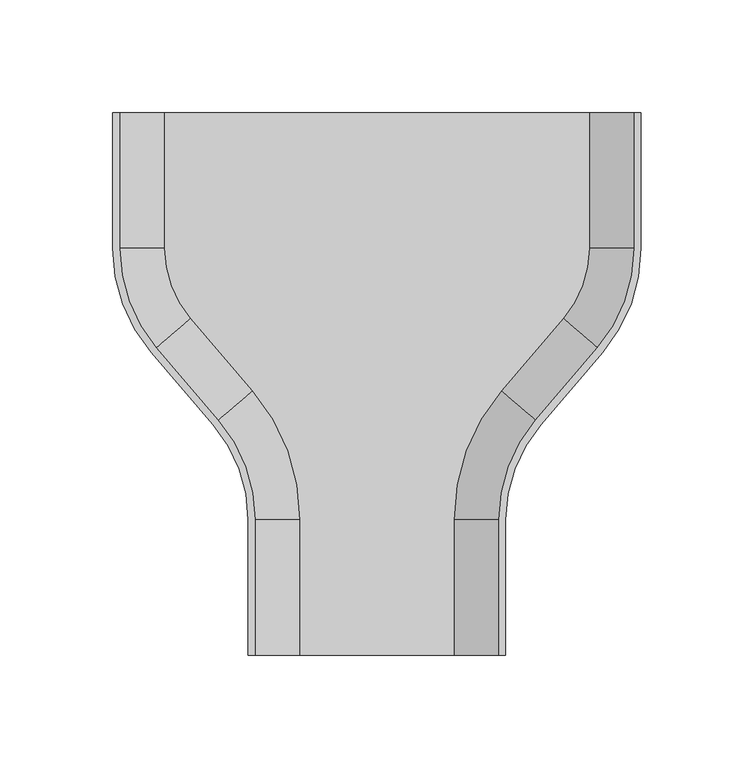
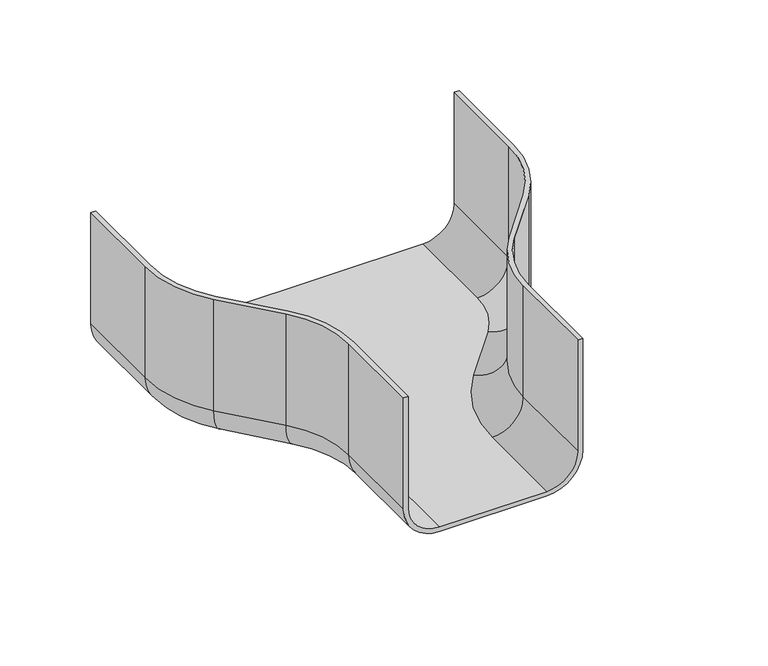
"""IFC4 building model written with IfcOpenShell, lengths in millimetres: cable carrier fitting geometry, CCT_Hyperline_FBTR-240-RDC120 Переход 240-120 для оптического лотка : Переход 240-120 для оптического лотка."""

from ifc_helpers import new_model, si_unit, point, frame, origin, place, context, project, spatial, polyline, circle_curve, ellipse_curve, trimmed, source, transform, mapped, element, save
from ifc_brep_helpers import plane_surface, cylinder_surface, revolved_surface, advanced_brep


def cable_carrier_fitting_166d4458(model_context):
    return source(origin(), model_context, "Body", "AdvancedBrep", [
        advanced_brep(
        [(-57.0, -120.0, -24.92), (-34.0, -120.0, -47.92), (34.0, -120.0, -47.92), (57.0, -120.0, -24.92), (57.0, -120.0, 50.0), (54.0, -120.0, 50.0), (54.0, -120.0, -24.92), (34.0, -120.0, -44.92), (-34.0, -120.0, -44.92), (-54.0, -120.0, -24.92), (-54.0, -120.0, 50.0), (-57.0, -120.0, 50.0), (-57.0, -60.0, -24.92), (-34.0, -60.0, -47.92), (-55.0846523, -3.0027575, -47.92), (-82.5450836, 29.0344124, -47.92), (-94.0, 60.0, -47.92), (-94.0, 120.0, -47.92), (94.0, 120.0, -47.92), (94.0, 60.0, -47.92), (82.5450836, 29.0344124, -47.92), (55.0846523, -3.0027575, -47.92), (34.0, -60.0, -47.92), (34.0, -60.0, -44.92), (55.0846523, -3.0027575, -44.92), (82.5450836, 29.0344124, -44.92), (94.0, 60.0, -44.92), (94.0, 120.0, -44.92), (-94.0, 120.0, -44.92), (-94.0, 60.0, -44.92), (-82.5450836, 29.0344124, -44.92), (-55.0846523, -3.0027575, -44.92), (-34.0, -60.0, -44.92), (-54.0, -60.0, -24.92), (-54.0, -60.0, 50.0), (-70.2697843, -16.0185849, 50.0), (-97.7302157, 16.0185849, 50.0), (-114.0, 60.0, 50.0), (-114.0, 120.0, 50.0), (-117.0, 120.0, 50.0), (-117.0, 60.0, 50.0), (-100.0079855, 14.0662108, 50.0), (-72.5475541, -17.9709591, 50.0), (-57.0, -60.0, 50.0), (-114.0, 120.0, -24.92), (114.0, 120.0, -24.92), (114.0, 120.0, 50.0), (117.0, 120.0, 50.0), (117.0, 120.0, -24.92), (-117.0, 120.0, -24.92), (-72.5475541, -17.9709591, -24.92), (-70.2697843, -16.0185849, -24.92), (-100.0079855, 14.0662108, -24.92), (-97.7302157, 16.0185849, -24.92), (-117.0, 60.0, -24.92), (-114.0, 60.0, -24.92), (57.0, -60.0, -24.92), (54.0, -60.0, -24.92), (54.0, -60.0, 50.0), (57.0, -60.0, 50.0), (72.5475541, -17.9709591, 50.0), (100.0079855, 14.0662108, 50.0), (117.0, 60.0, 50.0), (114.0, 60.0, 50.0), (97.7302157, 16.0185849, 50.0), (70.2697843, -16.0185849, 50.0), (72.5475541, -17.9709591, -24.92), (70.2697843, -16.0185849, -24.92), (100.0079855, 14.0662108, -24.92), (97.7302157, 16.0185849, -24.92), (117.0, 60.0, -24.92), (114.0, 60.0, -24.92)],
        [
            (0, 1, circle_curve(frame((-34.0, -120.0, -24.92), z_axis=(0.0, -1.0, 0.0), x_axis=(-1.0, 0.0, 0.0)), 23.0)),
            (1, 2),
            (2, 3, circle_curve(frame((34.0, -120.0, -24.92), z_axis=(0.0, -1.0, 0.0), x_axis=(-1.0, 0.0, 0.0)), 23.0)),
            (3, 4),
            (4, 5),
            (5, 6),
            (6, 7, circle_curve(frame((34.0, -120.0, -24.92), z_axis=(0.0, 1.0, 0.0), x_axis=(-1.0, 0.0, 0.0)), 20.0)),
            (7, 8),
            (8, 9, circle_curve(frame((-34.0, -120.0, -24.92), z_axis=(0.0, 1.0, 0.0), x_axis=(-1.0, 0.0, 0.0)), 20.0)),
            (9, 10),
            (10, 11),
            (11, 0),
            (0, 12),
            (12, 13, circle_curve(frame((-34.0, -60.0, -24.92), z_axis=(0.0, -1.0, 0.0), x_axis=(-1.0, 0.0, 0.0)), 23.0)),
            (13, 1),
            (13, 14, circle_curve(frame((-121.5814352, -60.0, -47.92), z_axis=(0.0, 0.0, 1.0), x_axis=(1.0, 0.0, 0.0)), 87.5814352)),
            (14, 15),
            (15, 16, circle_curve(frame((-46.4185648, 60.0, -47.92), z_axis=(0.0, 0.0, -1.0), x_axis=(-0.7592566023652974, -0.6507913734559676, 0.0)), 47.5814352)),
            (16, 17),
            (17, 18),
            (18, 19),
            (19, 20, circle_curve(frame((46.4185648, 60.0, -47.92), z_axis=(0.0, 0.0, -1.0), x_axis=(0.7592566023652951, -0.6507913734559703, 0.0)), 47.5814352)),
            (20, 21),
            (21, 22, circle_curve(frame((121.5814352, -60.0, -47.92), z_axis=(0.0, 0.0, 1.0), x_axis=(-1.0, 0.0, 0.0)), 87.5814352)),
            (22, 2),
            (7, 23),
            (23, 24, circle_curve(frame((121.5814352, -60.0, -44.92), z_axis=(0.0, 0.0, -1.0), x_axis=(-1.0, 0.0, 0.0)), 87.5814352)),
            (24, 25),
            (25, 26, circle_curve(frame((46.4185648, 60.0, -44.92), z_axis=(0.0, 0.0, 1.0), x_axis=(0.7592566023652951, -0.6507913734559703, 0.0)), 47.5814352)),
            (26, 27),
            (27, 28),
            (28, 29),
            (29, 30, circle_curve(frame((-46.4185648, 60.0, -44.92), z_axis=(0.0, 0.0, 1.0), x_axis=(-0.7592566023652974, -0.6507913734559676, 0.0)), 47.5814352)),
            (30, 31),
            (31, 32, circle_curve(frame((-121.5814352, -60.0, -44.92), z_axis=(0.0, 0.0, -1.0), x_axis=(1.0, 0.0, 0.0)), 87.5814352)),
            (32, 8),
            (32, 33, circle_curve(frame((-34.0, -60.0, -24.92), z_axis=(0.0, 1.0, 0.0), x_axis=(-1.0, 0.0, 0.0)), 20.0)),
            (33, 9),
            (33, 34),
            (34, 10),
            (34, 35, circle_curve(frame((-121.5814352, -60.0, 50.0), z_axis=(0.0, 0.0, 1.0), x_axis=(1.0, 0.0, 0.0)), 67.5814352)),
            (35, 36),
            (36, 37, circle_curve(frame((-46.4185648, 60.0, 50.0), z_axis=(0.0, 0.0, -1.0), x_axis=(-0.7592566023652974, -0.6507913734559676, 0.0)), 67.5814352)),
            (37, 38),
            (38, 39),
            (39, 40),
            (40, 41, circle_curve(frame((-46.4185648, 60.0, 50.0), z_axis=(0.0, 0.0, 1.0), x_axis=(-0.7592566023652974, -0.6507913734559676, 0.0)), 70.5814352)),
            (41, 42),
            (42, 43, circle_curve(frame((-121.5814352, -60.0, 50.0), z_axis=(0.0, 0.0, -1.0), x_axis=(1.0, 0.0, 0.0)), 64.5814352)),
            (43, 11),
            (43, 12),
            (38, 44),
            (44, 28, circle_curve(frame((-94.0, 120.0, -24.92), z_axis=(0.0, -1.0, 0.0), x_axis=(-1.0, 0.0, 0.0)), 20.0)),
            (27, 45, circle_curve(frame((94.0, 120.0, -24.92), z_axis=(0.0, -1.0, 0.0), x_axis=(-1.0, 0.0, 0.0)), 20.0)),
            (45, 46),
            (46, 47),
            (47, 48),
            (48, 18, circle_curve(frame((94.0, 120.0, -24.92), z_axis=(0.0, 1.0, 0.0), x_axis=(-1.0, 0.0, 0.0)), 23.0)),
            (17, 49, circle_curve(frame((-94.0, 120.0, -24.92), z_axis=(0.0, 1.0, 0.0), x_axis=(-1.0, 0.0, 0.0)), 23.0)),
            (49, 39),
            (12, 50, circle_curve(frame((-121.5814352, -60.0, -24.92), z_axis=(0.0, 0.0, 1.0), x_axis=(1.0, 0.0, 0.0)), 64.5814352)),
            (50, 14, circle_curve(frame((-55.0846523, -3.0027575, -24.92), z_axis=(0.650791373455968, -0.759256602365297, 0.0), x_axis=(-0.759256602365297, -0.650791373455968, 0.0)), 23.0)),
            (31, 51, circle_curve(frame((-55.0846523, -3.0027575, -24.92), z_axis=(-0.6507913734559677, 0.7592566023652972, 0.0), x_axis=(-0.7592566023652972, -0.6507913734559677, 0.0)), 20.0)),
            (51, 33, circle_curve(frame((-121.5814352, -60.0, -24.92), z_axis=(0.0, 0.0, -1.0), x_axis=(1.0, 0.0, 0.0)), 67.5814352)),
            (51, 35),
            (42, 50),
            (50, 52),
            (52, 15, circle_curve(frame((-82.5450836, 29.0344124, -24.92), z_axis=(0.6507913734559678, -0.7592566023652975, 0.0), x_axis=(-0.7592566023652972, -0.6507913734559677, 0.0)), 23.0)),
            (30, 53, circle_curve(frame((-82.5450836, 29.0344124, -24.92), z_axis=(-0.6507913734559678, 0.7592566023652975, 0.0), x_axis=(-0.7592566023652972, -0.6507913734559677, 0.0)), 20.0)),
            (53, 51),
            (53, 36),
            (41, 52),
            (52, 54, circle_curve(frame((-46.4185648, 60.0, -24.92), z_axis=(0.0, 0.0, -1.0), x_axis=(-0.7592566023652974, -0.6507913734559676, 0.0)), 70.5814352)),
            (54, 16, circle_curve(frame((-94.0, 60.0, -24.92), z_axis=(0.0, -1.0, 0.0), x_axis=(-1.0, 0.0, 0.0)), 23.0)),
            (29, 55, circle_curve(frame((-94.0, 60.0, -24.92), z_axis=(0.0, 1.0, 0.0), x_axis=(-1.0, 0.0, 0.0)), 20.0)),
            (55, 53, circle_curve(frame((-46.4185648, 60.0, -24.92), z_axis=(0.0, 0.0, 1.0), x_axis=(-0.7592566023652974, -0.6507913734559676, 0.0)), 67.5814352)),
            (55, 37),
            (40, 54),
            (54, 49),
            (44, 55),
            (22, 56, circle_curve(frame((34.0, -60.0, -24.92), z_axis=(0.0, -1.0, 0.0), x_axis=(-1.0, 0.0, 0.0)), 23.0)),
            (56, 3),
            (6, 57),
            (57, 23, circle_curve(frame((34.0, -60.0, -24.92), z_axis=(0.0, 1.0, 0.0), x_axis=(-1.0, 0.0, 0.0)), 20.0)),
            (5, 58),
            (58, 57),
            (4, 59),
            (59, 60, circle_curve(frame((121.5814352, -60.0, 50.0), z_axis=(0.0, 0.0, -1.0), x_axis=(-1.0, 0.0, 0.0)), 64.5814352)),
            (60, 61),
            (61, 62, circle_curve(frame((46.4185648, 60.0, 50.0), z_axis=(0.0, 0.0, 1.0), x_axis=(0.7592566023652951, -0.6507913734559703, 0.0)), 70.5814352)),
            (62, 47),
            (46, 63),
            (63, 64, circle_curve(frame((46.4185648, 60.0, 50.0), z_axis=(0.0, 0.0, -1.0), x_axis=(0.7592566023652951, -0.6507913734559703, 0.0)), 67.5814352)),
            (64, 65),
            (65, 58, circle_curve(frame((121.5814352, -60.0, 50.0), z_axis=(0.0, 0.0, 1.0), x_axis=(-1.0, 0.0, 0.0)), 67.5814352)),
            (56, 59),
            (21, 66, circle_curve(frame((55.0846523, -3.0027575, -24.92), z_axis=(-0.6507913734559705, -0.7592566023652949, 0.0), x_axis=(-0.7592566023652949, 0.6507913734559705, 0.0)), 23.0)),
            (66, 56, circle_curve(frame((121.5814352, -60.0, -24.92), z_axis=(0.0, 0.0, 1.0), x_axis=(-1.0, 0.0, 0.0)), 64.5814352)),
            (57, 67, circle_curve(frame((121.5814352, -60.0, -24.92), z_axis=(0.0, 0.0, -1.0), x_axis=(-1.0, 0.0, 0.0)), 67.5814352)),
            (67, 24, circle_curve(frame((55.0846523, -3.0027575, -24.92), z_axis=(0.6507913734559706, 0.7592566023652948, 0.0), x_axis=(-0.7592566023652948, 0.6507913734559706, 0.0)), 20.0)),
            (65, 67),
            (66, 60),
            (20, 68, circle_curve(frame((82.5450836, 29.0344124, -24.92), z_axis=(-0.6507913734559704, -0.759256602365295, 0.0), x_axis=(-0.759256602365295, 0.6507913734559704, 0.0)), 23.0)),
            (68, 66),
            (67, 69),
            (69, 25, circle_curve(frame((82.5450836, 29.0344124, -24.92), z_axis=(0.6507913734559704, 0.759256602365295, 0.0), x_axis=(-0.759256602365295, 0.6507913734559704, 0.0)), 20.0)),
            (64, 69),
            (68, 61),
            (19, 70, circle_curve(frame((94.0, 60.0, -24.92), z_axis=(0.0, -1.0, 0.0), x_axis=(-1.0, 0.0, 0.0)), 23.0)),
            (70, 68, circle_curve(frame((46.4185648, 60.0, -24.92), z_axis=(0.0, 0.0, -1.0), x_axis=(0.7592566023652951, -0.6507913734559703, 0.0)), 70.5814352)),
            (69, 71, circle_curve(frame((46.4185648, 60.0, -24.92), z_axis=(0.0, 0.0, 1.0), x_axis=(0.7592566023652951, -0.6507913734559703, 0.0)), 67.5814352)),
            (71, 26, circle_curve(frame((94.0, 60.0, -24.92), z_axis=(0.0, 1.0, 0.0), x_axis=(-1.0, 0.0, 0.0)), 20.0)),
            (63, 71),
            (70, 62),
            (48, 70),
            (71, 45),
        ],
        [
            plane_surface(frame((-54.0, -120.0, 0.0), z_axis=(0.0, -1.0, 0.0), x_axis=(0.0, 0.0, 1.0))),
            cylinder_surface(frame((-34.0, -120.0, -24.92), z_axis=(0.0, -1.0, 0.0), x_axis=(-1.0, 0.0, 0.0)), 23.0),
            plane_surface(frame((-34.0, -120.0, -47.92), z_axis=(0.0, 0.0, -1.0), x_axis=(0.0, 1.0, 0.0))),
            plane_surface(frame((0.0, -120.0, -44.92), z_axis=(0.0, 0.0, 1.0), x_axis=(0.0, 1.0, 0.0))),
            revolved_surface(polyline([(-54.0, -60.0, -24.92), (-54.0, -120.0, -24.92)]), (-34.0, -120.0, -24.92), (0.0, 1.0, 0.0)),
            plane_surface(frame((-54.0, -120.0, -24.92), z_axis=(1.0, 0.0, 0.0), x_axis=(0.0, 1.0, 0.0))),
            plane_surface(frame((-54.0, -120.0, 50.0), z_axis=(0.0, 0.0, 1.0), x_axis=(0.0, 1.0, 0.0))),
            plane_surface(frame((-57.0, -120.0, 50.0), z_axis=(-1.0, 0.0, 0.0), x_axis=(0.0, 1.0, 0.0))),
            plane_surface(frame((-114.0, 120.0, 0.0), z_axis=(0.0, 1.0, 0.0), x_axis=(0.0, 0.0, 1.0))),
            revolved_surface(trimmed(ellipse_curve(frame((-34.0, -60.0, -24.92), z_axis=(0.0, -1.0, 0.0), x_axis=(-1.0, 0.0, 0.0)), 23.0, 23.0), [point((-57.0, -60.0, -24.92))], [point((-34.0, -60.0, -47.92))], True, "CARTESIAN"), (-121.5814352, -60.0, 0.0), (0.0, 0.0, 1.0)),
            revolved_surface(trimmed(ellipse_curve(frame((-34.0, -60.0, -24.92), z_axis=(0.0, 1.0, 0.0), x_axis=(-1.0, 0.0, 0.0)), 20.0, 20.0), [point((-34.0, -60.0, -44.92))], [point((-54.0, -60.0, -24.92))], True, "CARTESIAN"), (-121.5814352, -60.0, 0.0), (0.0, 0.0, 1.0)),
            cylinder_surface(frame((-121.5814352, -60.0, 0.0), z_axis=(0.0, 0.0, 1.0), x_axis=(1.0, 0.0, 0.0)), 67.5814352),
            revolved_surface(polyline([(-57.0, -60.0, 50.0), (-57.0, -60.0, -24.92)]), (-121.5814352, -60.0, 0.0), (0.0, 0.0, 1.0)),
            cylinder_surface(frame((-55.0846523, -3.0027575, -24.92), z_axis=(0.6507913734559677, -0.7592566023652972, 0.0), x_axis=(-0.7592566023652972, -0.6507913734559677, 0.0)), 23.0),
            revolved_surface(polyline([(-97.7302156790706, 16.018584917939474, -24.92), (-70.26978434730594, -16.018584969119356, -24.92)]), (-55.0846523, -3.0027575, -24.92), (-0.6507913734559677, 0.7592566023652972, 0.0)),
            plane_surface(frame((-70.2697843, -16.0185849, -24.92), z_axis=(0.7592566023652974, 0.6507913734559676, 0.0), x_axis=(-0.6507913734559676, 0.7592566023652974, 0.0))),
            plane_surface(frame((-72.5475541, -17.9709591, 50.0), z_axis=(-0.7592566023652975, -0.6507913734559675, 0.0), x_axis=(-0.6507913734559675, 0.7592566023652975, 0.0))),
            revolved_surface(trimmed(ellipse_curve(frame((-82.5450836, 29.0344124, -24.92), z_axis=(0.6507913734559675, -0.7592566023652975, 0.0), x_axis=(-0.7592566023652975, -0.6507913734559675, 0.0)), 23.0, 23.0), [point((-100.0079855, 14.0662108, -24.92))], [point((-82.5450836, 29.0344124, -47.92))], True, "CARTESIAN"), (-46.4185648, 60.0, 0.0), (0.0, 0.0, -1.0)),
            revolved_surface(trimmed(ellipse_curve(frame((-82.5450836, 29.0344124, -24.92), z_axis=(-0.6507913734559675, 0.7592566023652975, 0.0), x_axis=(-0.7592566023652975, -0.6507913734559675, 0.0)), 20.0, 20.0), [point((-82.5450836, 29.0344124, -44.92))], [point((-97.7302157, 16.0185849, -24.92))], True, "CARTESIAN"), (-46.4185648, 60.0, 0.0), (0.0, 0.0, -1.0)),
            revolved_surface(polyline([(-97.73021567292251, 16.018584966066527, -24.92), (-97.73021567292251, 16.018584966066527, 50.0)]), (-46.4185648, 60.0, 0.0), (0.0, 0.0, -1.0)),
            cylinder_surface(frame((-46.4185648, 60.0, 0.0), z_axis=(0.0, 0.0, -1.0), x_axis=(-0.7592566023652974, -0.6507913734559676, 0.0)), 70.5814352),
            cylinder_surface(frame((-94.0, 60.0, -24.92), z_axis=(0.0, -1.0, 0.0), x_axis=(-1.0, 0.0, 0.0)), 23.0),
            revolved_surface(polyline([(-114.0, 120.0, -24.92), (-114.0, 60.0, -24.92)]), (-94.0, 60.0, -24.92), (0.0, 1.0, 0.0)),
            plane_surface(frame((-114.0, 60.0, -24.92), z_axis=(1.0, 0.0, 0.0), x_axis=(0.0, 1.0, 0.0))),
            plane_surface(frame((-117.0, 60.0, 50.0), z_axis=(-1.0, 0.0, 0.0), x_axis=(0.0, 1.0, 0.0))),
            cylinder_surface(frame((34.0, -120.0, -24.92), z_axis=(0.0, -1.0, 0.0), x_axis=(-1.0, 0.0, 0.0)), 23.0),
            revolved_surface(polyline([(14.0, -60.0, -24.92), (14.0, -120.0, -24.92)]), (34.0, -120.0, -24.92), (0.0, 1.0, 0.0)),
            plane_surface(frame((54.0, -120.0, 50.0), z_axis=(-1.0, 0.0, 0.0), x_axis=(0.0, 1.0, 0.0))),
            plane_surface(frame((57.0, -120.0, 50.0), z_axis=(0.0, 0.0, 1.0), x_axis=(0.0, 1.0, 0.0))),
            plane_surface(frame((57.0, -120.0, -24.92), z_axis=(1.0, 0.0, 0.0), x_axis=(0.0, 1.0, 0.0))),
            revolved_surface(trimmed(ellipse_curve(frame((34.0, -60.0, -24.92), z_axis=(0.0, -1.0, 0.0), x_axis=(-1.0, 0.0, 0.0)), 23.0, 23.0), [point((34.0, -60.0, -47.92))], [point((57.0, -60.0, -24.92))], True, "CARTESIAN"), (121.5814352, -60.0, 0.0), (0.0, 0.0, -1.0)),
            revolved_surface(trimmed(ellipse_curve(frame((34.0, -60.0, -24.92), z_axis=(0.0, 1.0, 0.0), x_axis=(-1.0, 0.0, 0.0)), 20.0, 20.0), [point((54.0, -60.0, -24.92))], [point((34.0, -60.0, -44.92))], True, "CARTESIAN"), (121.5814352, -60.0, 0.0), (0.0, 0.0, -1.0)),
            cylinder_surface(frame((121.5814352, -60.0, 0.0), z_axis=(0.0, 0.0, -1.0), x_axis=(-1.0, 0.0, 0.0)), 67.5814352),
            revolved_surface(polyline([(57.0, -60.0, -24.92), (57.0, -60.0, 50.0)]), (121.5814352, -60.0, 0.0), (0.0, 0.0, -1.0)),
            cylinder_surface(frame((55.0846523, -3.0027575, -24.92), z_axis=(-0.6507913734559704, -0.759256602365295, 0.0), x_axis=(-0.759256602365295, 0.6507913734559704, 0.0)), 23.0),
            revolved_surface(polyline([(67.35995158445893, 42.0502398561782, -24.92), (39.899520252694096, 10.013069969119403, -24.92)]), (55.0846523, -3.0027575, -24.92), (0.6507913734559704, 0.759256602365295, 0.0)),
            plane_surface(frame((70.2697843, -16.0185849, 50.0), z_axis=(-0.7592566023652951, 0.6507913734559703, 0.0), x_axis=(0.6507913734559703, 0.7592566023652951, 0.0))),
            plane_surface(frame((72.5475541, -17.9709591, -24.92), z_axis=(0.7592566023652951, -0.6507913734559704, 0.0), x_axis=(0.6507913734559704, 0.7592566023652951, 0.0))),
            revolved_surface(trimmed(ellipse_curve(frame((82.5450836, 29.0344124, -24.92), z_axis=(-0.6507913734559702, -0.7592566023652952, 0.0), x_axis=(-0.7592566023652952, 0.6507913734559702, 0.0)), 23.0, 23.0), [point((82.5450836, 29.0344124, -47.92))], [point((100.0079855, 14.0662108, -24.92))], True, "CARTESIAN"), (46.4185648, 60.0, 0.0), (0.0, 0.0, 1.0)),
            revolved_surface(trimmed(ellipse_curve(frame((82.5450836, 29.0344124, -24.92), z_axis=(0.6507913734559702, 0.7592566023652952, 0.0), x_axis=(-0.7592566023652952, 0.6507913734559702, 0.0)), 20.0, 20.0), [point((97.7302157, 16.0185849, -24.92))], [point((82.5450836, 29.0344124, -44.92))], True, "CARTESIAN"), (46.4185648, 60.0, 0.0), (0.0, 0.0, 1.0)),
            revolved_surface(polyline([(97.73021567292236, 16.018584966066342, 50.0), (97.73021567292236, 16.018584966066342, -24.92)]), (46.4185648, 60.0, 0.0), (0.0, 0.0, 1.0)),
            cylinder_surface(frame((46.4185648, 60.0, 0.0), z_axis=(0.0, 0.0, 1.0), x_axis=(0.7592566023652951, -0.6507913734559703, 0.0)), 70.5814352),
            cylinder_surface(frame((94.0, 60.0, -24.92), z_axis=(0.0, -1.0, 0.0), x_axis=(-1.0, 0.0, 0.0)), 23.0),
            revolved_surface(polyline([(74.0, 120.0, -24.92), (74.0, 60.0, -24.92)]), (94.0, 60.0, -24.92), (0.0, 1.0, 0.0)),
            plane_surface(frame((114.0, 60.0, 50.0), z_axis=(-1.0, 0.0, 0.0), x_axis=(0.0, 1.0, 0.0))),
            plane_surface(frame((117.0, 60.0, -24.92), z_axis=(1.0, 0.0, 0.0), x_axis=(0.0, 1.0, 0.0))),
        ],
        [
            (0, [[1, 2, 3, 4, 5, 6, 7, 8, 9, 10, 11, 12]]),
            (1, [[-1, 13, 14, 15]]),
            (2, [[-2, -15, 16, 17, 18, 19, 20, 21, 22, 23, 24, 25]]),
            (3, [[-8, 26, 27, 28, 29, 30, 31, 32, 33, 34, 35, 36]]),
            (4, [[-9, -36, 37, 38]]),
            (5, [[-10, -38, 39, 40]]),
            (6, [[-11, -40, 41, 42, 43, 44, 45, 46, 47, 48, 49, 50]]),
            (7, [[-12, -50, 51, -13]]),
            (8, [[-45, 52, 53, -31, 54, 55, 56, 57, 58, -20, 59, 60]]),
            (9, [[-14, 61, 62, -16]]),
            (10, [[-35, 63, 64, -37]]),
            (11, [[-39, -64, 65, -41]]),
            (12, [[-49, 66, -61, -51]]),
            (13, [[-17, -62, 67, 68]]),
            (14, [[-34, 69, 70, -63]]),
            (15, [[-42, -65, -70, 71]]),
            (16, [[-48, 72, -67, -66]]),
            (17, [[-18, -68, 73, 74]]),
            (18, [[-33, 75, 76, -69]]),
            (19, [[-43, -71, -76, 77]]),
            (20, [[-47, 78, -73, -72]]),
            (21, [[-19, -74, 79, -59]]),
            (22, [[-32, -53, 80, -75]]),
            (23, [[-44, -77, -80, -52]]),
            (24, [[-46, -60, -79, -78]]),
            (25, [[-3, -25, 81, 82]]),
            (26, [[-7, 83, 84, -26]]),
            (27, [[-6, 85, 86, -83]]),
            (28, [[-5, 87, 88, 89, 90, 91, -56, 92, 93, 94, 95, -85]]),
            (29, [[-4, -82, 96, -87]]),
            (30, [[-81, -24, 97, 98]]),
            (31, [[-27, -84, 99, 100]]),
            (32, [[-86, -95, 101, -99]]),
            (33, [[-88, -96, -98, 102]]),
            (34, [[-23, 103, 104, -97]]),
            (35, [[-28, -100, 105, 106]]),
            (36, [[-94, 107, -105, -101]]),
            (37, [[-89, -102, -104, 108]]),
            (38, [[-22, 109, 110, -103]]),
            (39, [[-29, -106, 111, 112]]),
            (40, [[-93, 113, -111, -107]]),
            (41, [[-90, -108, -110, 114]]),
            (42, [[-21, -58, 115, -109]]),
            (43, [[-30, -112, 116, -54]]),
            (44, [[-92, -55, -116, -113]]),
            (45, [[-91, -114, -115, -57]]),
        ],
    ),
    ])


if __name__ == "__main__":
    model = new_model("IFC4")
    model_context = context("Model", 3, world=origin())
    ifc_project = project(units=[si_unit("LENGTHUNIT", "METRE", prefix="MILLI")], contexts=[model_context])
    site = spatial("IfcSite", under=ifc_project)
    building = spatial("IfcBuilding", under=site)
    placement = place(None, origin())
    cable_carrier_fitting_shape = cable_carrier_fitting_166d4458(model_context)
    element("IfcCableCarrierFitting", 1, ObjectType="CCT_Hyperline_FBTR-240-RDC120 Переход 240-120 для оптического лотка : Переход 240-120 для оптического лотка", at=placement, inside=building, context=model_context, shape_type="MappedRepresentation", body=[
        mapped(cable_carrier_fitting_shape, transform((0.0, 0.0, 0.0), x_axis=(1.0, 0.0, 0.0), y_axis=(0.0, 1.0, 0.0), z_axis=(0.0, 0.0, 1.0))),
    ])
    save(model, "model.ifc")
